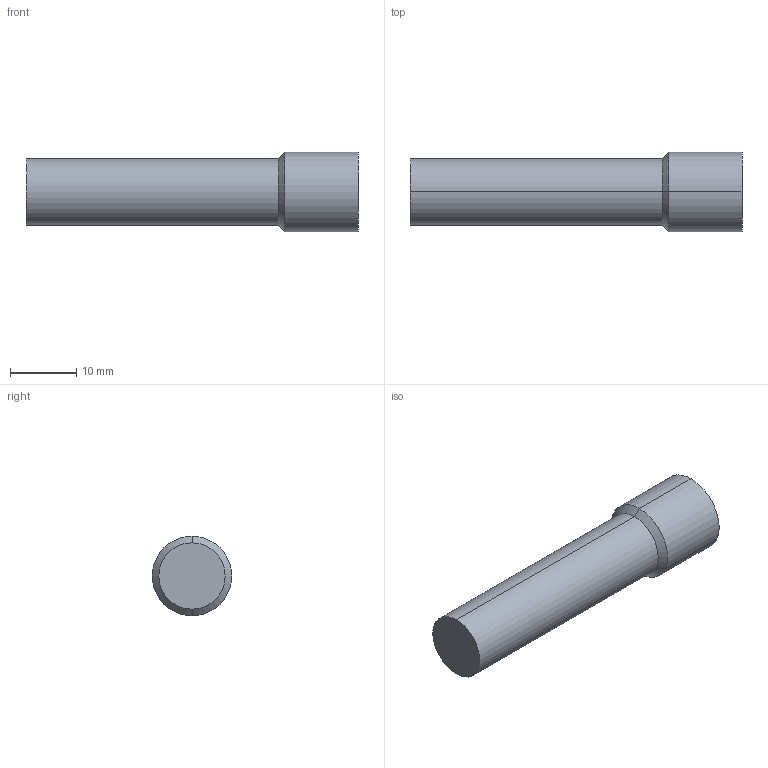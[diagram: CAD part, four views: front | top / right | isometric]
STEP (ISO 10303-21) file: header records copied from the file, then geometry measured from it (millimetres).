
FILE_DESCRIPTION (( 'STEP AP214' ), '1' );
FILE_NAME ('BR89-1-8x50.STEP', '2020-06-23T10:33:59', ( '' ), ( '' ), 'SwSTEP 2.0', 'SolidWorks 2018', '' );
FILE_SCHEMA (( 'AUTOMOTIVE_DESIGN' ));
Length unit declared in the file: millimetre
Products named in the file (1): BR89-1-8x50
Bounding box: 50 x 12 x 12 mm (x, y, z)
Volume: 4107.4 mm3; surface area: 2022.2 mm2
Topology: 1 solids, 1 shells, 15 faces, 32 edges, 20 vertices
Faces by surface type: plane 9, cylinder 4, cone 2
Entity records: 436 total; most frequent: DIRECTION 72, CARTESIAN_POINT 68, ORIENTED_EDGE 64, EDGE_CURVE 32, LINE 24, AXIS2_PLACEMENT_3D 24, VECTOR 24, VERTEX_POINT 20
